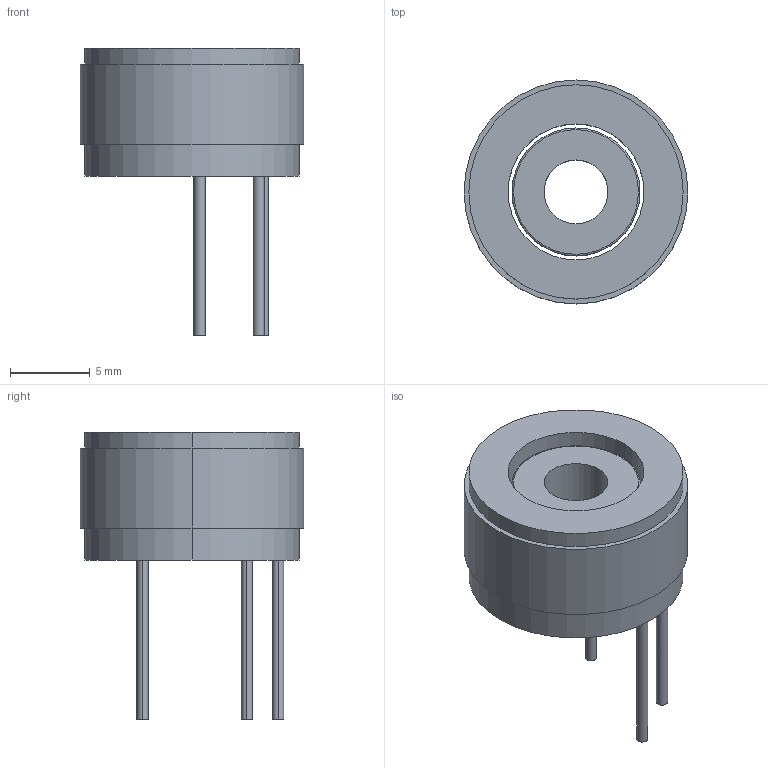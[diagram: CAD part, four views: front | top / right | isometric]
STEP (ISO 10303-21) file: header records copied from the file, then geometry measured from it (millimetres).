
FILE_DESCRIPTION (( 'STEP AP203' ), '1' );
FILE_NAME ('U1408 电机模型（20260715更新）.STEP', '2026-07-15T08:42:28', ( 'Windows User' ), ( 'P R C' ), 'SwSTEP 2.0', 'SolidWorks 2023', '' );
FILE_SCHEMA (( 'CONFIG_CONTROL_DESIGN' ));
Length unit declared in the file: millimetre
Products named in the file (1): U1408 电机模型（20260715更新）
Bounding box: 14 x 14 x 18 mm (x, y, z)
Volume: 953.8 mm3; surface area: 1097 mm2
Topology: 2 solids, 2 shells, 31 faces, 62 edges, 40 vertices
Faces by surface type: cylinder 18, plane 9, torus 4
Entity records: 911 total; most frequent: DIRECTION 170, CARTESIAN_POINT 134, ORIENTED_EDGE 124, AXIS2_PLACEMENT_3D 76, EDGE_CURVE 62, CIRCLE 44, EDGE_LOOP 40, VERTEX_POINT 40
